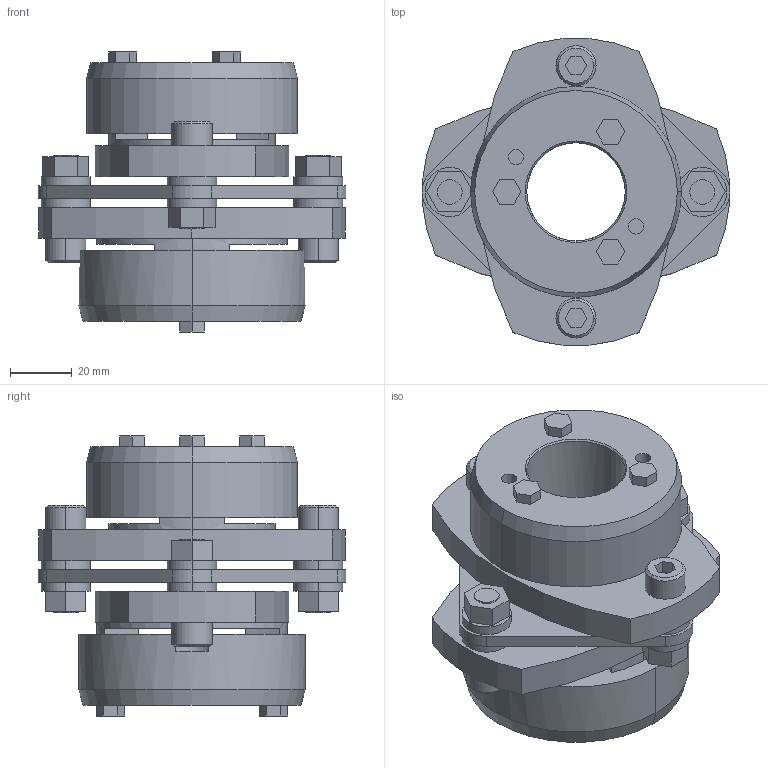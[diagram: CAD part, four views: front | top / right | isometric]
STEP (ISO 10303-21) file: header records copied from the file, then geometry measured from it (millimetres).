
FILE_DESCRIPTION((''),'2;1');
FILE_NAME('LCS-100T7-32×38.stp','2011-09-09T08:08:18',(''),(''),'AutoCAD STEP 2000i','AutoCAD 2000i',', , ');
FILE_SCHEMA(('CONFIG_CONTROL_DESIGN'));
Length unit declared in the file: millimetre
Products named in the file (11): LCS-100T7-30×38; 忣兜1; LC100T7-T038; LC100T7-T035; LC100T7-T030-1; LC100T7-T030; LC100T7-T025-1; LC100T7-T025; LC100T7-T022-1; LC100T7-T022; LCS100-ITA
Assembly tree (10 placements, depth 2):
  LCS-100T7-30×38
    忣兜1
    LC100T7-T038
    LC100T7-T035
    LC100T7-T030-1
    LC100T7-T030
    LC100T7-T025-1
    LC100T7-T025
    LC100T7-T022-1
    LC100T7-T022
    LCS100-ITA
Bounding box: 100 x 99.93 x 91 mm (x, y, z)
Volume: 262335.9 mm3; surface area: 65325.2 mm2
Topology: 1 solids, 1 shells, 229 faces, 562 edges, 368 vertices
Faces by surface type: plane 127, cylinder 82, cone 20
Entity records: 7051 total; most frequent: DIRECTION 1246, CARTESIAN_POINT 1170, ORIENTED_EDGE 1124, EDGE_CURVE 562, AXIS2_PLACEMENT_3D 444, VERTEX_POINT 368, VECTOR 358, LINE 358
